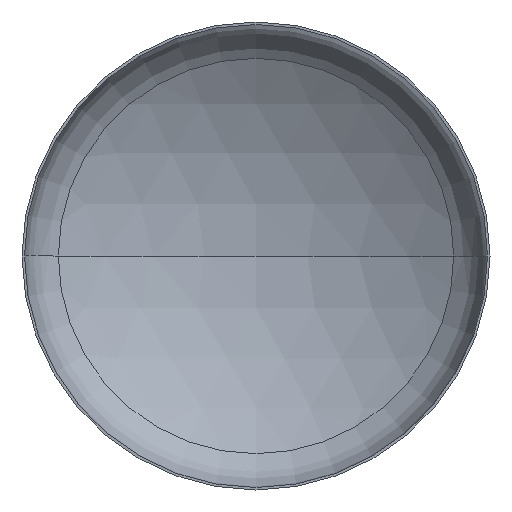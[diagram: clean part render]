
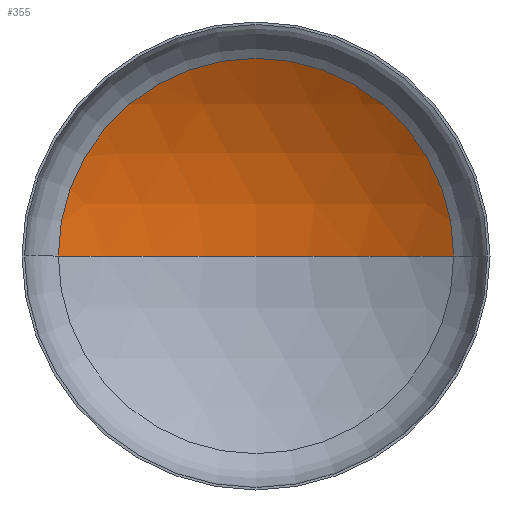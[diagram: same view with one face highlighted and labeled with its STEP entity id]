
A CAD part, front view. The second image highlights one B-rep face of the part: STEP entity #355.
In plain terms, the highlighted spherical face has radius 2560 mm.
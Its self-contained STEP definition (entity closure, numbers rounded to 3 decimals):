
#3 = ORIENTED_EDGE ( 'NONE', *, *, #323, .T. ) ;
#7 = ORIENTED_EDGE ( 'NONE', *, *, #326, .T. ) ;
#13 = CARTESIAN_POINT ( 'NONE',  ( 0., -1702.911, 0. ) ) ;
#18 = AXIS2_PLACEMENT_3D ( 'NONE', #174, #251, #169 ) ;
#20 = EDGE_LOOP ( 'NONE', ( #22, #7, #3 ) ) ;
#22 = ORIENTED_EDGE ( 'NONE', *, *, #334, .F. ) ;
#29 = CIRCLE ( 'NONE', #50, 1351.729 ) ;
#31 = VERTEX_POINT ( 'NONE', #238 ) ;
#38 = AXIS2_PLACEMENT_3D ( 'NONE', #13, #272, #276 ) ;
#44 = AXIS2_PLACEMENT_3D ( 'NONE', #163, #157, #158 ) ;
#50 = AXIS2_PLACEMENT_3D ( 'NONE', #177, #85, #87 ) ;
#54 = VERTEX_POINT ( 'NONE', #221 ) ;
#85 = DIRECTION ( 'NONE',  ( 0., -1., 0. ) ) ;
#87 = DIRECTION ( 'NONE',  ( 1., 0., 0. ) ) ;
#150 = VERTEX_POINT ( 'NONE', #199 ) ;
#157 = DIRECTION ( 'NONE',  ( 0., 0., -1. ) ) ;
#158 = DIRECTION ( 'NONE',  ( -1., 0., 0. ) ) ;
#163 = CARTESIAN_POINT ( 'NONE',  ( 0., -1702.911, 0. ) ) ;
#169 = DIRECTION ( 'NONE',  ( -1., 0., 0. ) ) ;
#174 = CARTESIAN_POINT ( 'NONE',  ( 0., -1702.911, 0. ) ) ;
#177 = CARTESIAN_POINT ( 'NONE',  ( 0., 471.124, 0. ) ) ;
#199 = CARTESIAN_POINT ( 'NONE',  ( 1351.729, 471.124, 0. ) ) ;
#221 = CARTESIAN_POINT ( 'NONE',  ( -1351.729, 471.124, 0. ) ) ;
#227 = CIRCLE ( 'NONE', #38, 2560. ) ;
#238 = CARTESIAN_POINT ( 'NONE',  ( 0., 857.089, 0. ) ) ;
#251 = DIRECTION ( 'NONE',  ( 0., 0., -1. ) ) ;
#272 = DIRECTION ( 'NONE',  ( 0., 0., 1. ) ) ;
#276 = DIRECTION ( 'NONE',  ( 1., 0., 0. ) ) ;
#279 = SPHERICAL_SURFACE ( 'NONE', #18, 2560. ) ;
#297 = CIRCLE ( 'NONE', #44, 2560. ) ;
#323 = EDGE_CURVE ( 'NONE', #150, #54, #29, .T. ) ;
#326 = EDGE_CURVE ( 'NONE', #31, #150, #297, .T. ) ;
#334 = EDGE_CURVE ( 'NONE', #31, #54, #227, .T. ) ;
#355 = ADVANCED_FACE ( 'NONE', ( #411 ), #279, .F. ) ;
#411 = FACE_OUTER_BOUND ( 'NONE', #20, .T. ) ;
